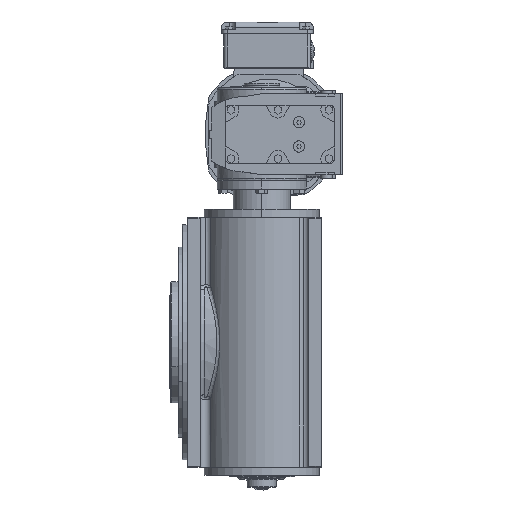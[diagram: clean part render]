
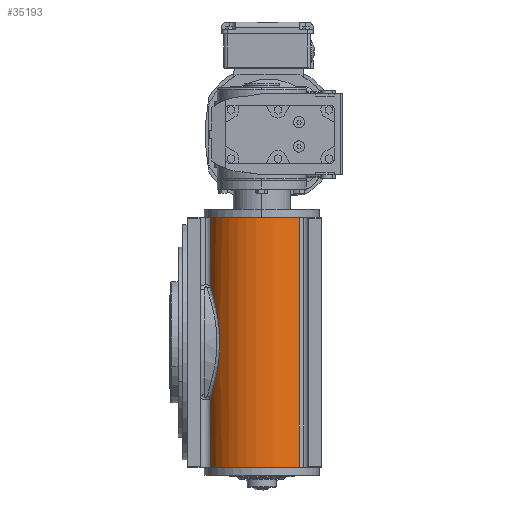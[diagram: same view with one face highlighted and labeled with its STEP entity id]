
A CAD part, left-side view. The second image highlights one B-rep face of the part: STEP entity #35193.
In plain terms, the highlighted cylindrical face has radius 71 mm (diameter 142 mm), a partial arc.
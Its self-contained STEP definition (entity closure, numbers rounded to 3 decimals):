
#72 = CYLINDRICAL_SURFACE ( 'NONE', #58538, 71. ) ;
#1598 = CARTESIAN_POINT ( 'NONE',  ( -128.109, 136.808, 68.859 ) ) ;
#2077 = CARTESIAN_POINT ( 'NONE',  ( -137.325, 131.008, 45.529 ) ) ;
#2301 = VERTEX_POINT ( 'NONE', #55578 ) ;
#2995 = VERTEX_POINT ( 'NONE', #80151 ) ;
#3157 = DIRECTION ( 'NONE',  ( 0., 0., 1. ) ) ;
#5068 = CARTESIAN_POINT ( 'NONE',  ( -148.721, 27.577, -154. ) ) ;
#5351 = CARTESIAN_POINT ( 'NONE',  ( -128.109, 136.808, -500000. ) ) ;
#7232 = CIRCLE ( 'NONE', #53970, 71. ) ;
#7980 = CARTESIAN_POINT ( 'NONE',  ( -138.584, 130.076, -41.542 ) ) ;
#8452 = CARTESIAN_POINT ( 'NONE',  ( -130.722, 135.43, -63.561 ) ) ;
#9713 = ORIENTED_EDGE ( 'NONE', *, *, #70581, .F. ) ;
#15261 = CARTESIAN_POINT ( 'NONE',  ( -144.049, 125.334, 2.839 ) ) ;
#15756 = CARTESIAN_POINT ( 'NONE',  ( -142.631, 126.653, -21.138 ) ) ;
#16213 = CARTESIAN_POINT ( 'NONE',  ( -141.962, 127.251, -25.6 ) ) ;
#16685 = CARTESIAN_POINT ( 'NONE',  ( -143.967, 125.413, 5.846 ) ) ;
#17490 = ORIENTED_EDGE ( 'NONE', *, *, #51725, .T. ) ;
#18346 = ORIENTED_EDGE ( 'NONE', *, *, #63898, .T. ) ;
#19332 = DIRECTION ( 'NONE',  ( 0., 0., 1. ) ) ;
#22028 = LINE ( 'NONE', #51846, #24395 ) ;
#22257 = VERTEX_POINT ( 'NONE', #27062 ) ;
#23462 = DIRECTION ( 'NONE',  ( 0., 0., -1. ) ) ;
#23995 = CARTESIAN_POINT ( 'NONE',  ( -144.04, 125.343, -6.17 ) ) ;
#24395 = VECTOR ( 'NONE', #23462, 1000. ) ;
#27062 = CARTESIAN_POINT ( 'NONE',  ( -128.109, 136.808, 68.859 ) ) ;
#28855 = CARTESIAN_POINT ( 'NONE',  ( -95., 74., -154. ) ) ;
#29807 = DIRECTION ( 'NONE',  ( 0., 0., 1. ) ) ;
#31326 = CARTESIAN_POINT ( 'NONE',  ( -136.889, 131.329, 46.942 ) ) ;
#32286 = CARTESIAN_POINT ( 'NONE',  ( -135.977, 131.984, 49.755 ) ) ;
#34466 = DIRECTION ( 'NONE',  ( 1., 0., 0. ) ) ;
#35193 = ADVANCED_FACE ( 'NONE', ( #81090 ), #72, .T. ) ;
#37320 = CARTESIAN_POINT ( 'NONE',  ( -148.721, 27.577, 154. ) ) ;
#37687 = CARTESIAN_POINT ( 'NONE',  ( -132.999, 134.023, -58.167 ) ) ;
#38650 = CARTESIAN_POINT ( 'NONE',  ( -128.109, 136.808, -68.859 ) ) ;
#39626 = CARTESIAN_POINT ( 'NONE',  ( -143.351, 125.993, 14.878 ) ) ;
#40531 = DIRECTION ( 'NONE',  ( 0., 0., 1. ) ) ;
#45073 = CARTESIAN_POINT ( 'NONE',  ( -142.199, 127.041, -24.119 ) ) ;
#45481 = EDGE_CURVE ( 'NONE', #2301, #93413, #7232, .T. ) ;
#45680 = B_SPLINE_CURVE_WITH_KNOTS ( 'NONE', 3,
 ( #1598, #91339, #82112, #46979, #32286, #31326, #2077, #76234, #52876, #60664, #53336, #90859, #39626, #61139, #52381, #16685, #15261, #23995, #82594, #83055, #15756, #45073, #16213, #74831, #54305, #7980, #84026, #37687, #8452, #38650 ),
 .UNSPECIFIED., .F., .F.,
 ( 4, 2, 2, 2, 2, 2, 2, 2, 2, 2, 2, 2, 2, 2, 4 ),
 ( 0., 0.018, 0.023, 0.027, 0.036, 0.055, 0.059, 0.064, 0.073, 0.091, 0.095, 0.1, 0.109, 0.127, 0.145 ),
 .UNSPECIFIED. ) ;
#46979 = CARTESIAN_POINT ( 'NONE',  ( -135.5, 132.319, 51.157 ) ) ;
#48405 = AXIS2_PLACEMENT_3D ( 'NONE', #71041, #19332, #34466 ) ;
#51725 = EDGE_CURVE ( 'NONE', #22257, #2995, #45680, .T. ) ;
#51846 = CARTESIAN_POINT ( 'NONE',  ( -128.109, 136.808, 500000. ) ) ;
#52381 = CARTESIAN_POINT ( 'NONE',  ( -143.713, 125.653, 10.36 ) ) ;
#52876 = CARTESIAN_POINT ( 'NONE',  ( -139.32, 129.475, 38.415 ) ) ;
#53336 = CARTESIAN_POINT ( 'NONE',  ( -142.345, 126.918, 23.884 ) ) ;
#53970 = AXIS2_PLACEMENT_3D ( 'NONE', #66683, #96430, #61317 ) ;
#54305 = CARTESIAN_POINT ( 'NONE',  ( -140.598, 128.429, -32.922 ) ) ;
#55578 = CARTESIAN_POINT ( 'NONE',  ( -128.109, 136.808, -154. ) ) ;
#57577 = VECTOR ( 'NONE', #40531, 1000. ) ;
#58538 = AXIS2_PLACEMENT_3D ( 'NONE', #28855, #29807, #59618 ) ;
#59618 = DIRECTION ( 'NONE',  ( 1., 0., 0. ) ) ;
#60664 = CARTESIAN_POINT ( 'NONE',  ( -141.327, 127.831, 29.758 ) ) ;
#61139 = CARTESIAN_POINT ( 'NONE',  ( -143.607, 125.753, 11.865 ) ) ;
#61317 = DIRECTION ( 'NONE',  ( 1., 0., 0. ) ) ;
#62686 = LINE ( 'NONE', #5068, #92103 ) ;
#63455 = LINE ( 'NONE', #5351, #57577 ) ;
#63635 = EDGE_CURVE ( 'NONE', #88903, #77499, #65591, .T. ) ;
#63898 = EDGE_CURVE ( 'NONE', #93413, #77499, #62686, .T. ) ;
#65583 = ORIENTED_EDGE ( 'NONE', *, *, #75973, .T. ) ;
#65591 = CIRCLE ( 'NONE', #48405, 71. ) ;
#66683 = CARTESIAN_POINT ( 'NONE',  ( -95., 74., -154. ) ) ;
#70581 = EDGE_CURVE ( 'NONE', #22257, #88903, #63455, .T. ) ;
#71041 = CARTESIAN_POINT ( 'NONE',  ( -95., 74., 154. ) ) ;
#72634 = CARTESIAN_POINT ( 'NONE',  ( -128.109, 136.808, 154. ) ) ;
#74831 = CARTESIAN_POINT ( 'NONE',  ( -141.192, 127.924, -30.015 ) ) ;
#75973 = EDGE_CURVE ( 'NONE', #2995, #2301, #22028, .T. ) ;
#76234 = CARTESIAN_POINT ( 'NONE',  ( -138.57, 130.069, 41.275 ) ) ;
#77499 = VERTEX_POINT ( 'NONE', #37320 ) ;
#79246 = CARTESIAN_POINT ( 'NONE',  ( -148.721, 27.577, -154. ) ) ;
#79304 = ORIENTED_EDGE ( 'NONE', *, *, #63635, .F. ) ;
#80151 = CARTESIAN_POINT ( 'NONE',  ( -128.109, 136.808, -68.859 ) ) ;
#81090 = FACE_OUTER_BOUND ( 'NONE', #95844, .T. ) ;
#82112 = CARTESIAN_POINT ( 'NONE',  ( -133.018, 134.012, 58.125 ) ) ;
#82594 = CARTESIAN_POINT ( 'NONE',  ( -143.692, 125.681, -12.164 ) ) ;
#83055 = CARTESIAN_POINT ( 'NONE',  ( -142.826, 126.476, -19.641 ) ) ;
#84026 = CARTESIAN_POINT ( 'NONE',  ( -136.93, 131.346, -47.157 ) ) ;
#88903 = VERTEX_POINT ( 'NONE', #72634 ) ;
#90859 = CARTESIAN_POINT ( 'NONE',  ( -143.2, 126.132, 16.387 ) ) ;
#91339 = CARTESIAN_POINT ( 'NONE',  ( -130.725, 135.429, 63.555 ) ) ;
#92103 = VECTOR ( 'NONE', #3157, 1000. ) ;
#93413 = VERTEX_POINT ( 'NONE', #79246 ) ;
#95844 = EDGE_LOOP ( 'NONE', ( #9713, #17490, #65583, #96039, #18346, #79304 ) ) ;
#96039 = ORIENTED_EDGE ( 'NONE', *, *, #45481, .T. ) ;
#96430 = DIRECTION ( 'NONE',  ( 0., 0., 1. ) ) ;
